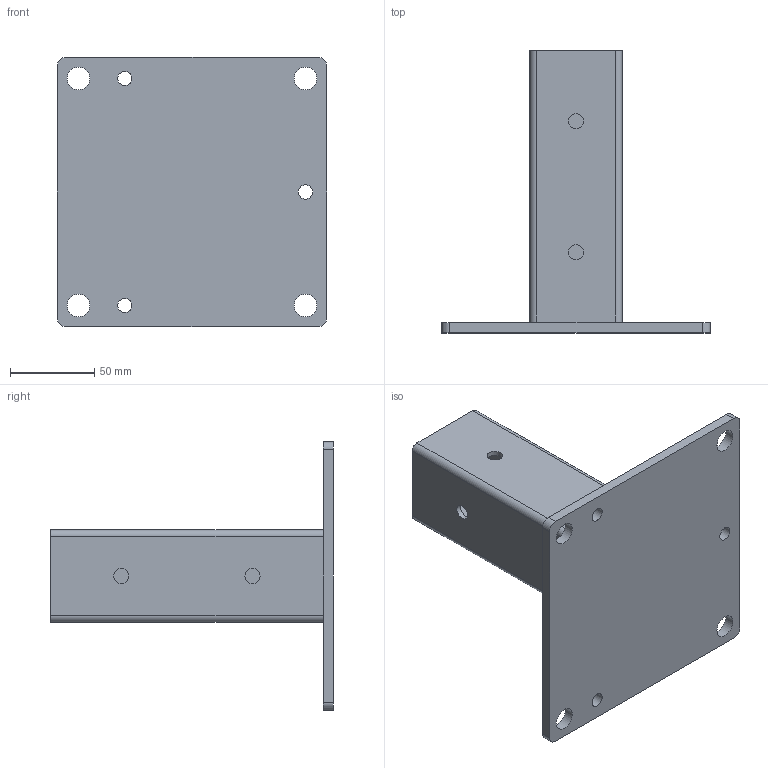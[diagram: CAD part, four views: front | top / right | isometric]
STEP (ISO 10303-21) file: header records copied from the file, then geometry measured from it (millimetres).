
FILE_DESCRIPTION (( 'STEP AP214' ), '1' );
FILE_NAME ('SN04001.step', '2024-12-03T16:31:35', ( '' ), ( '' ), 'SwSTEP 2.0', 'SolidWorks 2023', '' );
FILE_SCHEMA (( 'AUTOMOTIVE_DESIGN' ));
Length unit declared in the file: millimetre
Products named in the file (1): SN04001
Bounding box: 160 x 168 x 160 mm (x, y, z)
Volume: 247253.2 mm3; surface area: 122012.5 mm2
Topology: 2 solids, 2 shells, 39 faces, 105 edges, 70 vertices
Faces by surface type: cylinder 23, plane 16
Full cylindrical faces by diameter (mm): 8.5 x3, 9 x4, 13.5 x4
Entity records: 1270 total; most frequent: DIRECTION 220, CARTESIAN_POINT 204, ORIENTED_EDGE 188, EDGE_CURVE 94, AXIS2_PLACEMENT_3D 86, EDGE_LOOP 74, VERTEX_POINT 70, FACE_OUTER_BOUND 50
